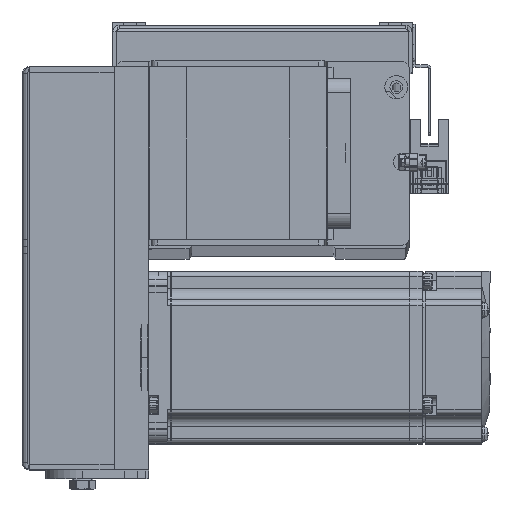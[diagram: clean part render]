
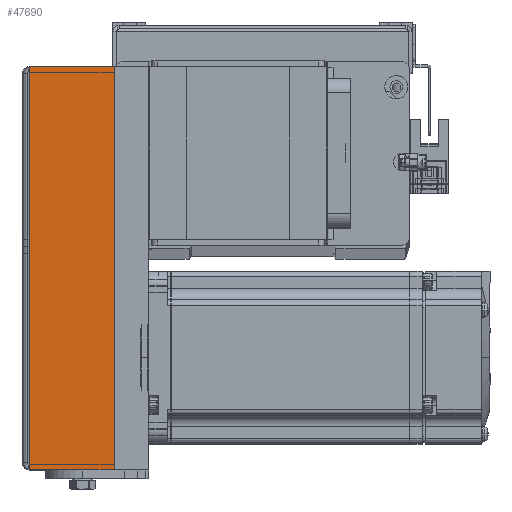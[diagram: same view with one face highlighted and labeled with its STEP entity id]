
A CAD part, top view. The second image highlights one B-rep face of the part: STEP entity #47690.
In plain terms, the highlighted planar face has unit normal (0, 0, 1) as drawn and (0, 0, -1) by its records, which use the part's own axes.
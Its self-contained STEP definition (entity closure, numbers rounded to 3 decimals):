
#1837 = DIRECTION ( 'NONE',  ( 0., 1., 0. ) ) ;
#4380 = LINE ( 'NONE', #40620, #16294 ) ;
#4746 = EDGE_LOOP ( 'NONE', ( #17273, #12609, #32859, #28000 ) ) ;
#5638 = VERTEX_POINT ( 'NONE', #8732 ) ;
#5844 = CARTESIAN_POINT ( 'NONE',  ( -70., -29.5, -31. ) ) ;
#8732 = CARTESIAN_POINT ( 'NONE',  ( -70., 0., -31. ) ) ;
#8952 = VECTOR ( 'NONE', #1837, 1000. ) ;
#12214 = VECTOR ( 'NONE', #17615, 1000. ) ;
#12609 = ORIENTED_EDGE ( 'NONE', *, *, #51623, .T. ) ;
#12759 = EDGE_CURVE ( 'NONE', #40109, #29227, #4380, .T. ) ;
#12892 = AXIS2_PLACEMENT_3D ( 'NONE', #18869, #43366, #43116 ) ;
#13324 = DIRECTION ( 'NONE',  ( 1., 0., 0. ) ) ;
#14174 = CARTESIAN_POINT ( 'NONE',  ( 70., -29.5, -31. ) ) ;
#15392 = FACE_OUTER_BOUND ( 'NONE', #4746, .T. ) ;
#16294 = VECTOR ( 'NONE', #41140, 1000. ) ;
#17273 = ORIENTED_EDGE ( 'NONE', *, *, #12759, .F. ) ;
#17549 = VECTOR ( 'NONE', #13324, 1000. ) ;
#17615 = DIRECTION ( 'NONE',  ( 0., 1., 0. ) ) ;
#18869 = CARTESIAN_POINT ( 'NONE',  ( 0., -30., -31. ) ) ;
#19962 = CARTESIAN_POINT ( 'NONE',  ( 70., 0., -31. ) ) ;
#20598 = EDGE_CURVE ( 'NONE', #5638, #52649, #21029, .T. ) ;
#21029 = LINE ( 'NONE', #32795, #17549 ) ;
#26130 = LINE ( 'NONE', #14174, #12214 ) ;
#28000 = ORIENTED_EDGE ( 'NONE', *, *, #50120, .F. ) ;
#29227 = VERTEX_POINT ( 'NONE', #43803 ) ;
#31129 = CARTESIAN_POINT ( 'NONE',  ( -70., -29.5, -31. ) ) ;
#32795 = CARTESIAN_POINT ( 'NONE',  ( 0., 0., -31. ) ) ;
#32859 = ORIENTED_EDGE ( 'NONE', *, *, #20598, .T. ) ;
#40109 = VERTEX_POINT ( 'NONE', #31129 ) ;
#40620 = CARTESIAN_POINT ( 'NONE',  ( 70., -29.5, -31. ) ) ;
#41140 = DIRECTION ( 'NONE',  ( 1., 0., 0. ) ) ;
#42876 = LINE ( 'NONE', #5844, #8952 ) ;
#43116 = DIRECTION ( 'NONE',  ( 0., 1., 0. ) ) ;
#43366 = DIRECTION ( 'NONE',  ( 0., 0., 1. ) ) ;
#43803 = CARTESIAN_POINT ( 'NONE',  ( 70., -29.5, -31. ) ) ;
#47380 = PLANE ( 'NONE',  #12892 ) ;
#47690 = ADVANCED_FACE ( 'NONE', ( #15392 ), #47380, .F. ) ;
#50120 = EDGE_CURVE ( 'NONE', #29227, #52649, #26130, .T. ) ;
#51623 = EDGE_CURVE ( 'NONE', #40109, #5638, #42876, .T. ) ;
#52649 = VERTEX_POINT ( 'NONE', #19962 ) ;
